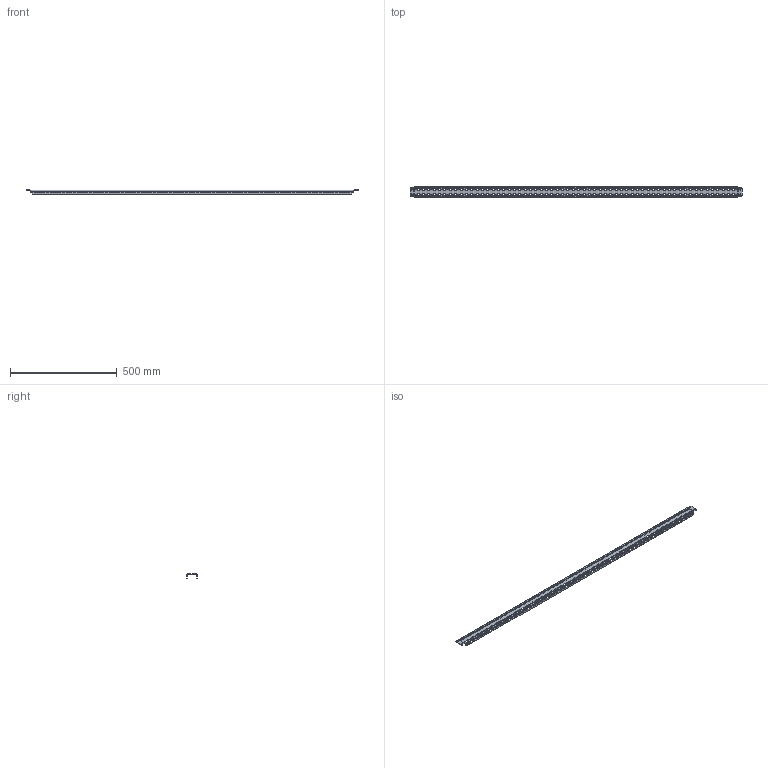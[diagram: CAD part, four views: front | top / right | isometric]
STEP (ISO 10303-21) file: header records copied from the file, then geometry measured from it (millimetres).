
FILE_DESCRIPTION (( 'STEP AP203' ), '1' );
FILE_NAME ('MRD 160.06 Ðåéêà ìîíòàæíàÿ âåðòèêàëüíàÿ.STEP', '2025-05-15T12:27:23', ( '' ), ( '' ), 'SwSTEP 2.0', 'SolidWorks 2019', '' );
FILE_SCHEMA (( 'CONFIG_CONTROL_DESIGN' ));
Length unit declared in the file: millimetre
Products named in the file (1): MRD 160.06 Ðåéêà ìîíòàæíàÿ âåðòèêàëüíàÿ
Bounding box: 1552 x 49 x 19.03 mm (x, y, z)
Volume: 191111.6 mm3; surface area: 222812.7 mm2
Topology: 1 solids, 1 shells, 2486 faces, 7404 edges, 4920 vertices
Faces by surface type: plane 1966, cylinder 520
Entity records: 84633 total; most frequent: CARTESIAN_POINT 14811, ORIENTED_EDGE 14808, DIRECTION 13418, EDGE_CURVE 7404, VECTOR 6364, LINE 6364, VERTEX_POINT 4920, AXIS2_PLACEMENT_3D 3527
